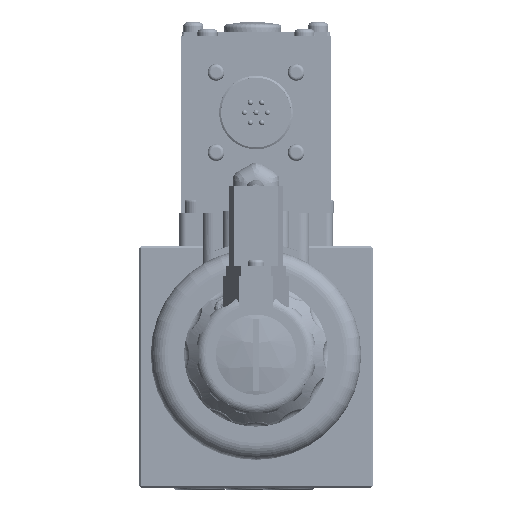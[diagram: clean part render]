
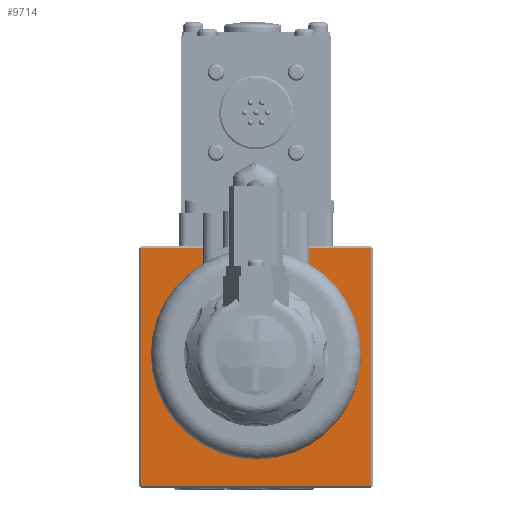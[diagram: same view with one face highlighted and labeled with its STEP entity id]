
A CAD part, left-side view. The second image highlights one B-rep face of the part: STEP entity #9714.
In plain terms, the highlighted planar face has unit normal (-1, 0, 0).
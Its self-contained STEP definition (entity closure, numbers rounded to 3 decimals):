
#2315=FACE_BOUND('',#12938,.T.);
#2316=FACE_BOUND('',#12939,.T.);
#2317=FACE_BOUND('',#12940,.T.);
#2318=FACE_BOUND('',#12941,.T.);
#2319=FACE_BOUND('',#12942,.T.);
#2320=FACE_BOUND('',#12943,.T.);
#3089=PLANE('',#30197);
#5694=LINE('',#90110,#7761);
#5695=LINE('',#90113,#7762);
#5696=LINE('',#90115,#7763);
#5697=LINE('',#90117,#7764);
#7761=VECTOR('',#35673,1.);
#7762=VECTOR('',#35674,1.);
#7763=VECTOR('',#35675,1.);
#7764=VECTOR('',#35676,1.);
#9714=ADVANCED_FACE('',(#2315,#2316,#2317,#2318,#2319,#2320),#3089,.T.);
#12938=EDGE_LOOP('',(#18390));
#12939=EDGE_LOOP('',(#18391,#18392,#18393,#18394));
#12940=EDGE_LOOP('',(#18395));
#12941=EDGE_LOOP('',(#18396));
#12942=EDGE_LOOP('',(#18397));
#12943=EDGE_LOOP('',(#18398));
#18390=ORIENTED_EDGE('',*,*,#26012,.T.);
#18391=ORIENTED_EDGE('',*,*,#26013,.T.);
#18392=ORIENTED_EDGE('',*,*,#26014,.T.);
#18393=ORIENTED_EDGE('',*,*,#26015,.T.);
#18394=ORIENTED_EDGE('',*,*,#26016,.T.);
#18395=ORIENTED_EDGE('',*,*,#26017,.T.);
#18396=ORIENTED_EDGE('',*,*,#26018,.T.);
#18397=ORIENTED_EDGE('',*,*,#26019,.T.);
#18398=ORIENTED_EDGE('',*,*,#26020,.T.);
#22692=VERTEX_POINT('',#90109);
#22693=VERTEX_POINT('',#90111);
#22694=VERTEX_POINT('',#90112);
#22695=VERTEX_POINT('',#90114);
#22696=VERTEX_POINT('',#90116);
#22697=VERTEX_POINT('',#90119);
#22698=VERTEX_POINT('',#90121);
#22699=VERTEX_POINT('',#90123);
#22700=VERTEX_POINT('',#90125);
#26012=EDGE_CURVE('',#22692,#22692,#28188,.T.);
#26013=EDGE_CURVE('',#22693,#22694,#5694,.T.);
#26014=EDGE_CURVE('',#22694,#22695,#5695,.T.);
#26015=EDGE_CURVE('',#22695,#22696,#5696,.T.);
#26016=EDGE_CURVE('',#22696,#22693,#5697,.T.);
#26017=EDGE_CURVE('',#22697,#22697,#28189,.T.);
#26018=EDGE_CURVE('',#22698,#22698,#28190,.T.);
#26019=EDGE_CURVE('',#22699,#22699,#28191,.T.);
#26020=EDGE_CURVE('',#22700,#22700,#28192,.T.);
#28188=CIRCLE('',#30192,3.25);
#28189=CIRCLE('',#30193,1.8);
#28190=CIRCLE('',#30194,1.8);
#28191=CIRCLE('',#30195,1.8);
#28192=CIRCLE('',#30196,16.);
#30192=AXIS2_PLACEMENT_3D('',#90108,#35671,#35672);
#30193=AXIS2_PLACEMENT_3D('',#90118,#35677,#35678);
#30194=AXIS2_PLACEMENT_3D('',#90120,#35679,#35680);
#30195=AXIS2_PLACEMENT_3D('',#90122,#35681,#35682);
#30196=AXIS2_PLACEMENT_3D('',#90124,#35683,#35684);
#30197=AXIS2_PLACEMENT_3D('',#90126,#35685,#35686);
#35671=DIRECTION('',(1.,0.,0.));
#35672=DIRECTION('',(0.,0.,-1.));
#35673=DIRECTION('',(0.,1.,0.));
#35674=DIRECTION('',(0.,0.,-1.));
#35675=DIRECTION('',(0.,-1.,0.));
#35676=DIRECTION('',(0.,0.,1.));
#35677=DIRECTION('',(1.,0.,0.));
#35678=DIRECTION('',(0.,0.,-1.));
#35679=DIRECTION('',(1.,0.,0.));
#35680=DIRECTION('',(0.,0.,-1.));
#35681=DIRECTION('',(1.,0.,0.));
#35682=DIRECTION('',(0.,0.,-1.));
#35683=DIRECTION('',(1.,0.,0.));
#35684=DIRECTION('',(0.,0.,1.));
#35685=DIRECTION('',(-1.,0.,0.));
#35686=DIRECTION('',(0.,0.,-1.));
#90108=CARTESIAN_POINT('',(94.,-22.996,-17.));
#90109=CARTESIAN_POINT('',(94.,-22.996,-20.25));
#90110=CARTESIAN_POINT('',(94.,0.,-0.7));
#90111=CARTESIAN_POINT('',(94.,-69.3,-0.7));
#90112=CARTESIAN_POINT('',(94.,-0.7,-0.7));
#90113=CARTESIAN_POINT('',(94.,-0.7,-72.5));
#90114=CARTESIAN_POINT('',(94.,-0.7,-71.8));
#90115=CARTESIAN_POINT('',(94.,-70.,-71.8));
#90116=CARTESIAN_POINT('',(94.,-69.3,-71.8));
#90117=CARTESIAN_POINT('',(94.,-69.3,-72.5));
#90118=CARTESIAN_POINT('',(94.,-16.,-32.5));
#90119=CARTESIAN_POINT('',(94.,-16.,-34.3));
#90120=CARTESIAN_POINT('',(94.,-54.,-32.5));
#90121=CARTESIAN_POINT('',(94.,-54.,-34.3));
#90122=CARTESIAN_POINT('',(94.,-35.,-51.5));
#90123=CARTESIAN_POINT('',(94.,-35.,-53.3));
#90124=CARTESIAN_POINT('',(94.,-35.,-32.5));
#90125=CARTESIAN_POINT('',(94.,-35.,-16.5));
#90126=CARTESIAN_POINT('',(94.,0.,-72.5));
